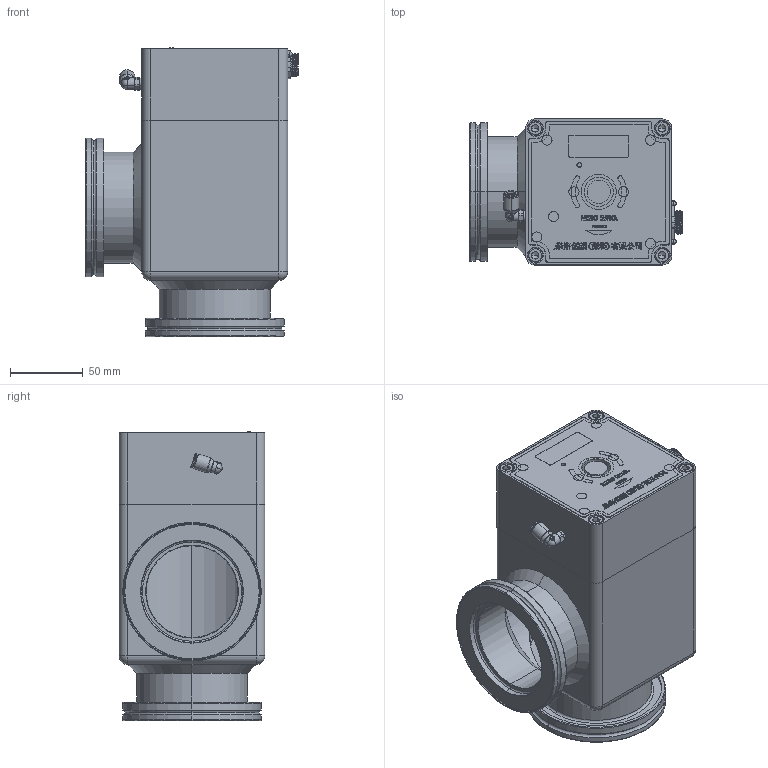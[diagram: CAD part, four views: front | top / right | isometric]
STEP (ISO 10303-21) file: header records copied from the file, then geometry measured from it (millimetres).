
FILE_DESCRIPTION (( 'STEP AP203' ), '1' );
FILE_NAME ('ISO-K DN63 ½Ç·§.STEP', '2022-12-13T10:30:11', ( '' ), ( '' ), 'SwSTEP 2.0', 'SolidWorks 2023', '' );
FILE_SCHEMA (( 'CONFIG_CONTROL_DESIGN' ));
Products named in the file (1): ISO-K DN63 角阀
Bounding box: 145.6 x 100 x 198.25 mm (x, y, z)
Surface area: 177530.5 mm2 (no closed solid volume)
Topology: 0 solids, 55 shells, 566 faces, 2699 edges, 2122 vertices
Faces by surface type: plane 234, cylinder 161, torus 70, bspline 58, cone 37, sphere 6
Entity records: 37526 total; most frequent: CARTESIAN_POINT 17950, ORIENTED_EDGE 3614, DIRECTION 3484, EDGE_CURVE 2678, VERTEX_POINT 2122, VECTOR 1236, LINE 1236, AXIS2_PLACEMENT_3D 1124
